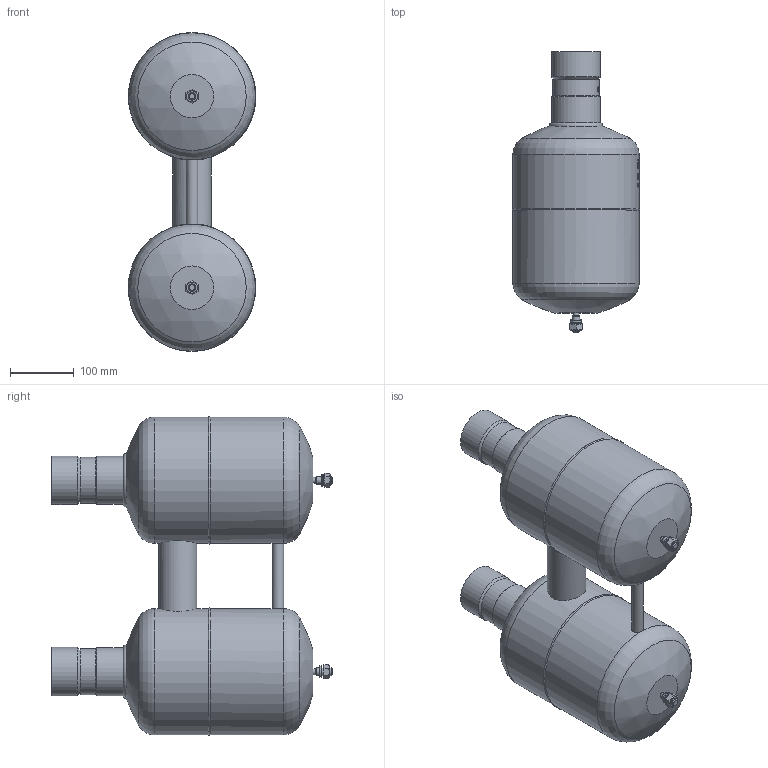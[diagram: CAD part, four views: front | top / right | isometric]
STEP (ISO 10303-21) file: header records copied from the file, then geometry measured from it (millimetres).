
FILE_DESCRIPTION(/* description */ (''),/* implementation_level */ '2;1');
FILE_NAME(/* name */ 'P:\FA\FA-67_70T\FA-67_70T.stp',/* time_stamp */ '2017-10-05T07:59:58+02:00',/* author */ ('neufeld'),/* organization */ (''),/* preprocessor_version */ 'ST-DEVELOPER v16.1',/* originating_system */ 'Autodesk Inventor 2016',/* authorisation */ '');
FILE_SCHEMA (('AUTOMOTIVE_DESIGN { 1 0 10303 214 3 1 1 }'));
Length unit declared in the file: millimetre
Products named in the file (1): FA-67_70T
Bounding box: 200.05 x 439.1 x 500.01 mm (x, y, z)
Volume: 17481094.6 mm3; surface area: 520925.1 mm2
Topology: 3 solids, 3 shells, 1311 faces, 3525 edges, 2346 vertices
Faces by surface type: plane 704, bspline 444, cylinder 138, cone 13, torus 8, sphere 4
Full cylindrical faces by diameter (mm): 9 x2, 12 x4, 18 x1, 18.3 x2, 60 x1, 60.7 x1, 70.3 x2, 72.5 x2, 75.4 x2, 76 x2, 198 x4
Entity records: 50617 total; most frequent: CARTESIAN_POINT 20201, ORIENTED_EDGE 6944, DIRECTION 5190, EDGE_CURVE 3472, VERTEX_POINT 2334, AXIS2_PLACEMENT_3D 1778, LINE 1634, VECTOR 1634
